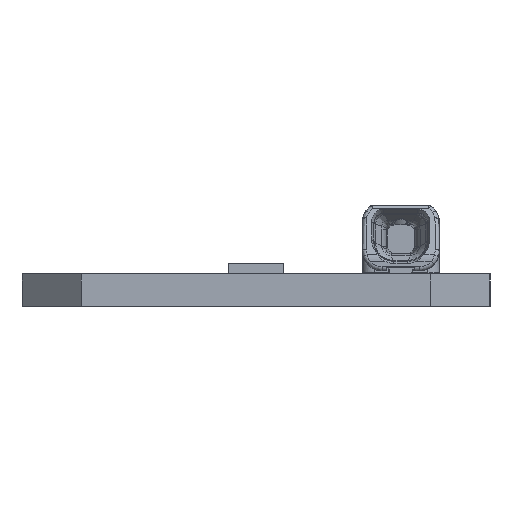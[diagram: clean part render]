
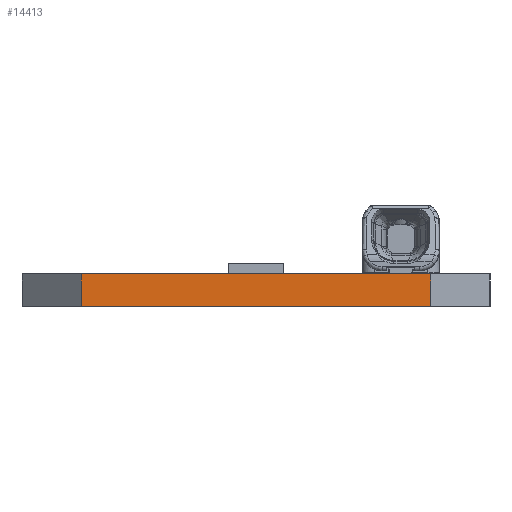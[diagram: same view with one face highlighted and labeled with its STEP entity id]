
A CAD part, left-side view. The second image highlights one B-rep face of the part: STEP entity #14413.
In plain terms, the highlighted planar face has unit normal (-1, 0, 0).
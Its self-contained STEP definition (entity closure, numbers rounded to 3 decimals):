
#679=DIRECTION('',(0.,0.,1.));
#680=VECTOR('',#679,1.65);
#681=CARTESIAN_POINT('',(-69.5,-8.8,0.));
#682=LINE('',#681,#680);
#686=DIRECTION('',(0.,1.,0.));
#687=VECTOR('',#686,17.6);
#688=CARTESIAN_POINT('',(-69.5,-8.8,1.65));
#689=LINE('',#688,#687);
#777=DIRECTION('',(0.,1.,0.));
#778=VECTOR('',#777,17.6);
#779=CARTESIAN_POINT('',(-69.5,-8.8,0.));
#780=LINE('',#779,#778);
#1120=DIRECTION('',(0.,0.,1.));
#1121=VECTOR('',#1120,1.65);
#1122=CARTESIAN_POINT('',(-69.5,8.8,0.));
#1123=LINE('',#1122,#1121);
#13093=CARTESIAN_POINT('',(-69.5,8.8,0.));
#13095=VERTEX_POINT('',#13093);
#13169=CARTESIAN_POINT('',(-69.5,-8.8,0.));
#13170=VERTEX_POINT('',#13169);
#13173=CARTESIAN_POINT('',(-69.5,-8.8,1.65));
#13174=VERTEX_POINT('',#13173);
#13209=CARTESIAN_POINT('',(-69.5,8.8,1.65));
#13210=VERTEX_POINT('',#13209);
#14399=CARTESIAN_POINT('',(-69.5,8.8,1.65));
#14400=DIRECTION('',(-1.,0.,0.));
#14401=DIRECTION('',(0.,0.,1.));
#14402=AXIS2_PLACEMENT_3D('',#14399,#14400,#14401);
#14403=PLANE('',#14402);
#14405=ORIENTED_EDGE('',*,*,#14404,.F.);
#14407=ORIENTED_EDGE('',*,*,#14406,.T.);
#14409=ORIENTED_EDGE('',*,*,#14408,.T.);
#14410=ORIENTED_EDGE('',*,*,#14112,.F.);
#14411=EDGE_LOOP('',(#14405,#14407,#14409,#14410));
#14412=FACE_OUTER_BOUND('',#14411,.F.);
#14112=EDGE_CURVE('',#13174,#13210,#689,.T.);
#14404=EDGE_CURVE('',#13170,#13174,#682,.T.);
#14406=EDGE_CURVE('',#13170,#13095,#780,.T.);
#14408=EDGE_CURVE('',#13095,#13210,#1123,.T.);
#14413=ADVANCED_FACE('',(#14412),#14403,.T.);
